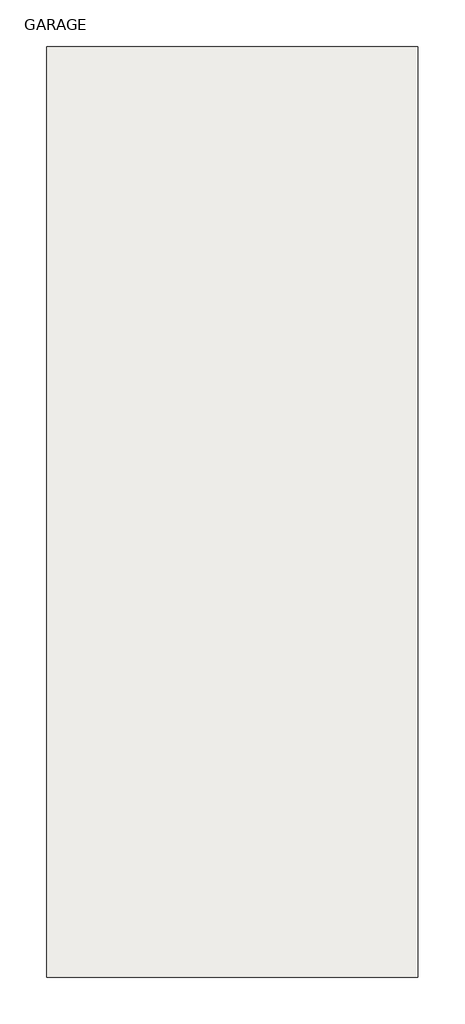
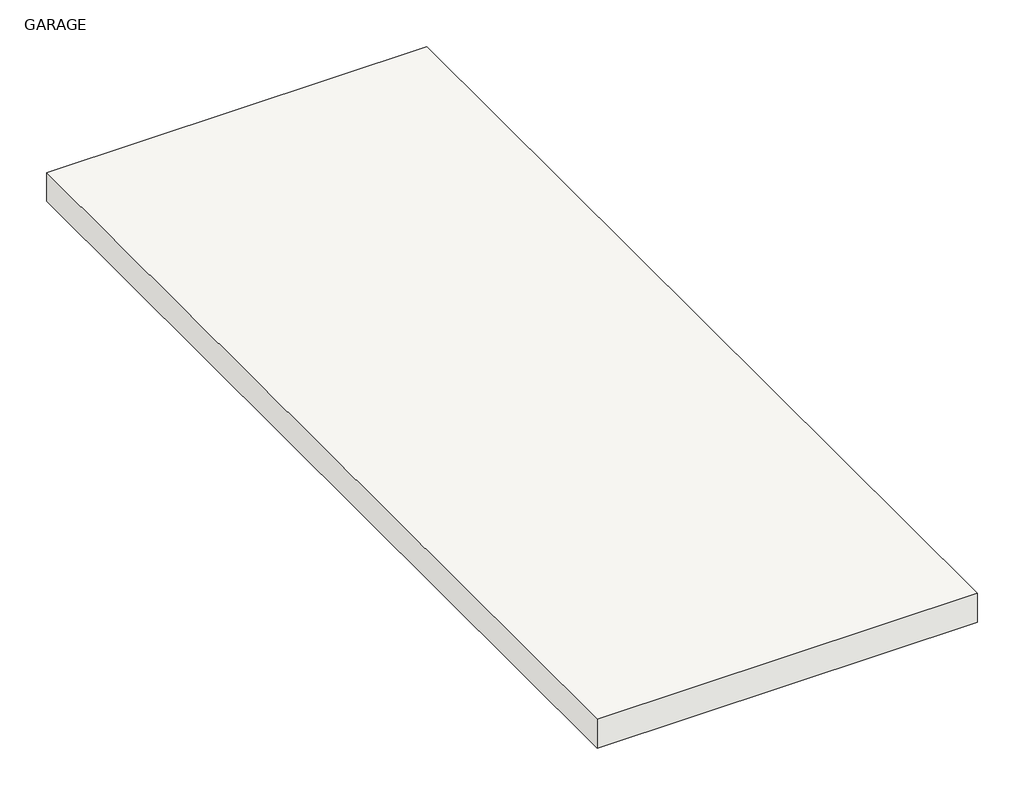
# One storey: 1 slab.
"""IFC4 building model written with IfcOpenShell, lengths in millimetres."""

import ifcopenshell
import ifcopenshell.guid

model = None  # the IFC model being written
_history = None  # IfcOwnerHistory: only IFC2X3 demands one
_inside = {}  # id of a spatial element -> (the spatial element, [elements in it])
_under = {}  # id of a project, library or spatial element -> (it, [spatial elements below it])
_declared = {}  # id of a project -> (the project, [libraries it declares])
_typed = {}  # id of a type object -> (the type object, [elements of that type])
_made_of = {}  # id of a material, layer set ... -> (it, [elements and type objects made of it])


def new_model(schema):
    """Start an empty IFC model of exactly this schema.

    Asked for "IFC4X3", IfcOpenShell would pick the latest addendum, in which some entities
    have other attributes; the version numbers below select the first issue.
    IFC2X3 requires an IfcOwnerHistory on every rooted entity: one is made here for all.
    """
    global model, _history
    if schema == "IFC4X3":
        model = ifcopenshell.file(schema_version=(4, 3, 0, 0))
    else:
        model = ifcopenshell.file(schema=schema)
    _inside.clear()
    _under.clear()
    _declared.clear()
    _typed.clear()
    _made_of.clear()
    _history = None
    if model.schema == "IFC2X3":
        org = make("IfcOrganization", Name="unknown")
        user = make(
            "IfcPersonAndOrganization",
            ThePerson=make("IfcPerson", FamilyName="unknown"),
            TheOrganization=org,
        )
        app = make(
            "IfcApplication",
            ApplicationDeveloper=org,
            Version="unknown",
            ApplicationFullName="unknown",
            ApplicationIdentifier="unknown",
        )
        _history = make(
            "IfcOwnerHistory",
            OwningUser=user,
            OwningApplication=app,
            ChangeAction="ADDED",
            CreationDate=0,
        )
    return model


def make(cls, **values):
    """One entity of the class cls with the attributes given. An attribute that is None is left unset."""
    return model.create_entity(
        cls, **{name: value for name, value in values.items() if value is not None}
    )


def rooted(cls, **values):
    """An entity with a GlobalId (a new one), such as an element, a storey or a relation."""
    return make(cls, GlobalId=ifcopenshell.guid.new(), OwnerHistory=_history, **values)


def si_unit(unit_type, name, prefix=None):
    """IfcSIUnit, for example si_unit("LENGTHUNIT", "METRE", prefix="MILLI")."""
    return make("IfcSIUnit", UnitType=unit_type, Prefix=prefix, Name=name)


def assignment(units):
    """IfcUnitAssignment: the units of a project."""
    return None if units is None else make("IfcUnitAssignment", Units=units)


def point(xyz):
    """IfcCartesianPoint."""
    return None if xyz is None else make("IfcCartesianPoint", Coordinates=xyz)


def direction(xyz):
    """IfcDirection."""
    return None if xyz is None else make("IfcDirection", DirectionRatios=xyz)


def frame(location, z_axis=None, x_axis=None):
    """IfcAxis2Placement3D, a coordinate frame: its origin and axes. An axis left out is left unset."""
    return make(
        "IfcAxis2Placement3D",
        Location=point(location),
        Axis=direction(z_axis),
        RefDirection=direction(x_axis),
    )


def origin():
    """The frame at (0, 0, 0) with its axes left unset."""
    return frame((0.0, 0.0, 0.0))


def place(relative_to, where):
    """IfcLocalPlacement: puts the frame where relative to a parent placement (None: the world)."""
    return make(
        "IfcLocalPlacement", PlacementRelTo=relative_to, RelativePlacement=where
    )


def context(
    kind, dimensions, precision=None, world=None, true_north=None, identifier=None
):
    """IfcGeometricRepresentationContext, for example the 3D "Model" context."""
    return make(
        "IfcGeometricRepresentationContext",
        ContextIdentifier=identifier,
        ContextType=kind,
        CoordinateSpaceDimension=dimensions,
        Precision=precision,
        WorldCoordinateSystem=world,
        TrueNorth=true_north,
    )


def project(units=None, contexts=None):
    """IfcProject with its units and contexts."""
    return rooted(
        "IfcProject",
        Name="project",
        RepresentationContexts=contexts,
        UnitsInContext=assignment(units),
    )


def spatial(cls, under=None, at=None, **own):
    """A site, building, storey or space (cls), placed at a placement, below another one or the project."""
    s = rooted(cls, ObjectPlacement=at, **own)
    if under is not None:
        _under.setdefault(under.id(), (under, []))[1].append(s)
    return s


def polyline(points):
    """IfcPolyline through the points."""
    return make("IfcPolyline", Points=[point(p) for p in points])


def outline(outer, holes=None, kind="AREA"):
    """IfcArbitraryClosedProfileDef: a profile drawn as a closed curve; with holes, ...WithVoids."""
    if holes is None:
        return make("IfcArbitraryClosedProfileDef", ProfileType=kind, OuterCurve=outer)
    return make(
        "IfcArbitraryProfileDefWithVoids",
        ProfileType=kind,
        OuterCurve=outer,
        InnerCurves=holes,
    )


def extrude(swept, where, along, depth):
    """IfcExtrudedAreaSolid: the profile swept, set in the frame where, extruded along a direction by depth."""
    return make(
        "IfcExtrudedAreaSolid",
        SweptArea=swept,
        Position=where,
        ExtrudedDirection=direction(along),
        Depth=depth,
    )


def shape(context_of_items, identifier, shape_type, items):
    """IfcShapeRepresentation: the items that make up one representation, for example the "Body"."""
    return make(
        "IfcShapeRepresentation",
        ContextOfItems=context_of_items,
        RepresentationIdentifier=identifier,
        RepresentationType=shape_type,
        Items=items,
    )


def made_of(thing, what):
    """Note that an element or type object is made of a material, layer set ...; save() writes the relation."""
    if what is not None:
        _made_of.setdefault(what.id(), (what, []))[1].append(thing)
    return thing


def element(
    cls,
    number,
    at=None,
    inside=None,
    cuts=None,
    type_object=None,
    material=None,
    context=None,
    identifier="Body",
    shape_type=None,
    held_by="IfcProductDefinitionShape",
    body=None,
    shapes=None,
    **own,
):
    """One element of the class cls, such as IfcWall. Its Tag is "e" and its number.

    at: its placement. inside: the storey or other place that contains it. cuts: it is an
    opening in that element (IfcRelVoidsElement). A single representation is given by context,
    identifier, shape_type and body (its items); several are given by shapes. held_by: the class
    of the entity that holds the representations. save() writes the other relations.
    """
    e = rooted(cls, Tag="e%d" % number, ObjectPlacement=at, **own)
    if body is not None:
        shapes = [shape(context, identifier, shape_type, body)]
    if shapes is not None:
        e.Representation = make(held_by, Representations=shapes)
    if inside is not None:
        _inside.setdefault(inside.id(), (inside, []))[1].append(e)
    if cuts is not None:
        rooted(
            "IfcRelVoidsElement", RelatingBuildingElement=cuts, RelatedOpeningElement=e
        )
    if type_object is not None:
        _typed.setdefault(type_object.id(), (type_object, []))[1].append(e)
    return made_of(e, material)


def aggregate(whole, parts):
    """IfcRelAggregates: a whole, such as a stair, and the parts it consists of."""
    return rooted("IfcRelAggregates", RelatingObject=whole, RelatedObjects=parts)


def save(model, path):
    """Write the relations noted so far, then the file.

    IfcRelAggregates (storeys below a building ...), IfcRelContainedInSpatialStructure (elements
    in a storey), IfcRelDefinesByType, IfcRelAssociatesMaterial and IfcRelDeclares: one each for
    every whole, place, type object, material and project.
    """
    for whole, parts in _under.values():
        aggregate(whole, parts)
    for where, things in _inside.values():
        rooted(
            "IfcRelContainedInSpatialStructure",
            RelatedElements=things,
            RelatingStructure=where,
        )
    for kind, things in _typed.values():
        rooted("IfcRelDefinesByType", RelatedObjects=things, RelatingType=kind)
    for what, things in _made_of.values():
        rooted("IfcRelAssociatesMaterial", RelatedObjects=things, RelatingMaterial=what)
    for by, libraries in _declared.values():
        rooted("IfcRelDeclares", RelatingContext=by, RelatedDefinitions=libraries)
    model.write(path)


model = new_model("IFC4")

# Units and contexts
model_context = context("Model", 3, world=origin())
ifc_project = project(units=[si_unit("LENGTHUNIT", "METRE", prefix="MILLI")], contexts=[model_context])

# Site, building, storey
site = spatial("IfcSite", under=ifc_project)
building = spatial("IfcBuilding", under=site)
storey = spatial("IfcBuildingStorey", under=building, Name="GARAGE", Elevation=-470.0)

# Slab
placement = place(None, origin())
element("IfcSlab", 1, ObjectType="Dalle en béton - 250 mm", at=placement, inside=storey, context=model_context, shape_type="SweptSolid", body=[
    extrude(outline(polyline([(-18288.2926959, 11357.3797732), (-18288.2926959, 3537.3797732), (-21408.2926959, 3537.3797732), (-21408.2926959, 11357.3797732), (-18288.2926959, 11357.3797732)])), frame((0.0, 0.0, -720.0), z_axis=(0.0, 0.0, 1.0), x_axis=(1.0, 0.0, 0.0)), (0.0, 0.0, 1.0), 250.0),
])

save(model, "model.ifc")
